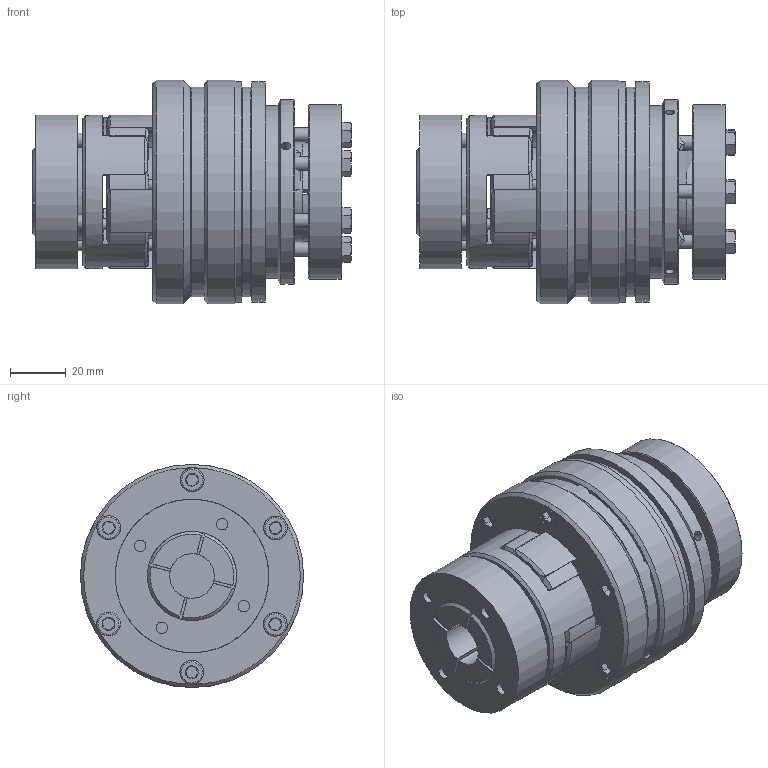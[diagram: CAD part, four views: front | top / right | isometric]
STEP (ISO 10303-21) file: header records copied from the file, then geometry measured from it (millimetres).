
FILE_DESCRIPTION( ( 'Unknown' ), '1' );
FILE_NAME( 'C:/Dokumente und Einstellungen/Sven/Desktop/hp kbk/E-AA/KBK EAA-24-99.stp', 'Unknown', ( 'Unknown' ), ( 'Unknown' ), 'XStep 1.0', 'Unknown', ' ' );
FILE_SCHEMA( ( 'automotive_design' ) );
Length unit declared in the file: millimetre
Products named in the file (19): Assem1; Assem2; Assem3; ball_bearing_-_6007_0_01_0; ball_bearing_-_6007_0_02_0; ball_bearing_-_6007_0_03_0; Zylinderschraube DIN 912_1; Stellring 60_0; Druckring 60_0; Flansch 60_0; a_35_0; Elastomerflansch 24_0; Zahnkranz_24_Standard_0; ISO EN DIN 4762_M5x20_0; KBK L-A-60 Grundkörper_0; Druckring L-A-60_0; din_en_24017_m5x20_0; KBE3-24_Druckring_0; KBE3 C - 24 Nabe
Bounding box: 114.15 x 80 x 80 mm (x, y, z)
Volume: 618964.2 mm3; surface area: 267740.2 mm2
Topology: 49 solids, 49 shells, 1262 faces, 2762 edges, 1709 vertices
Faces by surface type: plane 445, cone 385, cylinder 360, torus 72
Full cylindrical faces by diameter (mm): 2.5 x4, 3.242 x6, 4 x22, 4.134 x28, 4.2 x8, 4.959 x8, 5 x20, 5.2 x12, 5.5 x12, 6.88 x7, 8.5 x25, 9.5 x8, 15 x2, 16 x2, 27 x4, 30 x4, 33 x2, 34.625 x2, 35 x7, 35.937 x2, 43.7 x6, 44 x2, 46 x4, 46.5 x2, 53.6 x6, 55 x6, 61.3 x2, 62 x7, 62.5 x2, 66 x2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
Entity records: 13854 total; most frequent: CARTESIAN_POINT 3017, DIRECTION 2332, ORIENTED_EDGE 1816, AXIS2_PLACEMENT_3D 1079, EDGE_CURVE 908, EDGE_LOOP 744, VERTEX_POINT 632, FACE_OUTER_BOUND 599
